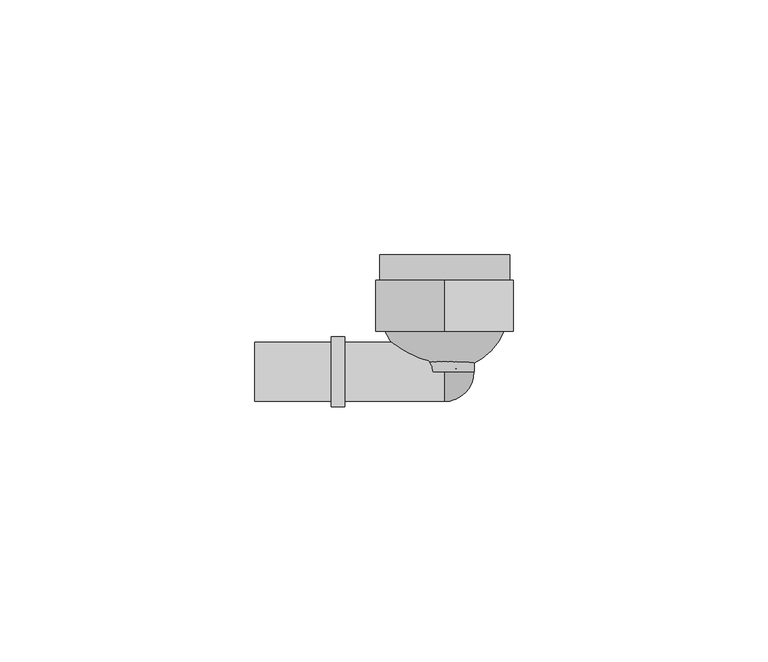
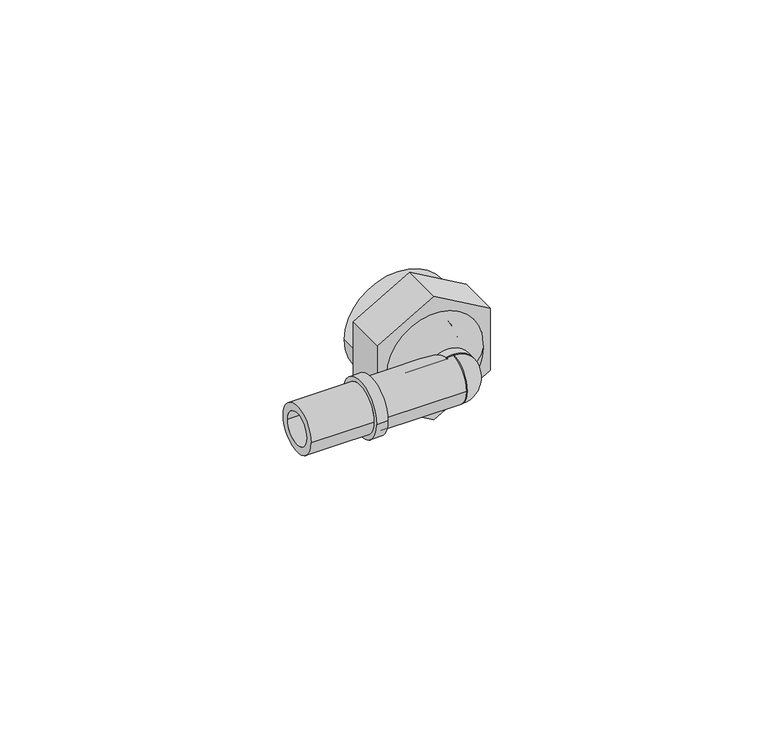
"""IFC4 building model written with IfcOpenShell, lengths in millimetres: pipe fitting geometry, FASTLOC_Elbow with female thread LX : FSL A internal PL."""

import ifcopenshell
import ifcopenshell.guid

model = None  # the IFC model being written
_history = None  # IfcOwnerHistory: only IFC2X3 demands one
_inside = {}  # id of a spatial element -> (the spatial element, [elements in it])
_under = {}  # id of a project, library or spatial element -> (it, [spatial elements below it])
_declared = {}  # id of a project -> (the project, [libraries it declares])
_typed = {}  # id of a type object -> (the type object, [elements of that type])
_made_of = {}  # id of a material, layer set ... -> (it, [elements and type objects made of it])


def new_model(schema):
    """Start an empty IFC model of exactly this schema.

    Asked for "IFC4X3", IfcOpenShell would pick the latest addendum, in which some entities
    have other attributes; the version numbers below select the first issue.
    IFC2X3 requires an IfcOwnerHistory on every rooted entity: one is made here for all.
    """
    global model, _history
    if schema == "IFC4X3":
        model = ifcopenshell.file(schema_version=(4, 3, 0, 0))
    else:
        model = ifcopenshell.file(schema=schema)
    _inside.clear()
    _under.clear()
    _declared.clear()
    _typed.clear()
    _made_of.clear()
    _history = None
    if model.schema == "IFC2X3":
        org = make("IfcOrganization", Name="unknown")
        user = make(
            "IfcPersonAndOrganization",
            ThePerson=make("IfcPerson", FamilyName="unknown"),
            TheOrganization=org,
        )
        app = make(
            "IfcApplication",
            ApplicationDeveloper=org,
            Version="unknown",
            ApplicationFullName="unknown",
            ApplicationIdentifier="unknown",
        )
        _history = make(
            "IfcOwnerHistory",
            OwningUser=user,
            OwningApplication=app,
            ChangeAction="ADDED",
            CreationDate=0,
        )
    return model


def make(cls, **values):
    """One entity of the class cls with the attributes given. An attribute that is None is left unset."""
    return model.create_entity(
        cls, **{name: value for name, value in values.items() if value is not None}
    )


def rooted(cls, **values):
    """An entity with a GlobalId (a new one), such as an element, a storey or a relation."""
    return make(cls, GlobalId=ifcopenshell.guid.new(), OwnerHistory=_history, **values)


def si_unit(unit_type, name, prefix=None):
    """IfcSIUnit, for example si_unit("LENGTHUNIT", "METRE", prefix="MILLI")."""
    return make("IfcSIUnit", UnitType=unit_type, Prefix=prefix, Name=name)


def assignment(units):
    """IfcUnitAssignment: the units of a project."""
    return None if units is None else make("IfcUnitAssignment", Units=units)


def point(xyz):
    """IfcCartesianPoint."""
    return None if xyz is None else make("IfcCartesianPoint", Coordinates=xyz)


def direction(xyz):
    """IfcDirection."""
    return None if xyz is None else make("IfcDirection", DirectionRatios=xyz)


def frame(location, z_axis=None, x_axis=None):
    """IfcAxis2Placement3D, a coordinate frame: its origin and axes. An axis left out is left unset."""
    return make(
        "IfcAxis2Placement3D",
        Location=point(location),
        Axis=direction(z_axis),
        RefDirection=direction(x_axis),
    )


def frame_2d(location, x_axis=None):
    """IfcAxis2Placement2D, a coordinate frame in the plane: its origin and x axis."""
    return make(
        "IfcAxis2Placement2D", Location=point(location), RefDirection=direction(x_axis)
    )


def origin():
    """The frame at (0, 0, 0) with its axes left unset."""
    return frame((0.0, 0.0, 0.0))


def origin_2d():
    """The frame at (0, 0) in the plane with its x axis left unset."""
    return frame_2d((0.0, 0.0))


def place(relative_to, where):
    """IfcLocalPlacement: puts the frame where relative to a parent placement (None: the world)."""
    return make(
        "IfcLocalPlacement", PlacementRelTo=relative_to, RelativePlacement=where
    )


def context(
    kind, dimensions, precision=None, world=None, true_north=None, identifier=None
):
    """IfcGeometricRepresentationContext, for example the 3D "Model" context."""
    return make(
        "IfcGeometricRepresentationContext",
        ContextIdentifier=identifier,
        ContextType=kind,
        CoordinateSpaceDimension=dimensions,
        Precision=precision,
        WorldCoordinateSystem=world,
        TrueNorth=true_north,
    )


def project(units=None, contexts=None):
    """IfcProject with its units and contexts."""
    return rooted(
        "IfcProject",
        Name="project",
        RepresentationContexts=contexts,
        UnitsInContext=assignment(units),
    )


def spatial(cls, under=None, at=None, **own):
    """A site, building, storey or space (cls), placed at a placement, below another one or the project."""
    s = rooted(cls, ObjectPlacement=at, **own)
    if under is not None:
        _under.setdefault(under.id(), (under, []))[1].append(s)
    return s


def polyline(points):
    """IfcPolyline through the points."""
    return make("IfcPolyline", Points=[point(p) for p in points])


def circle_curve(where, radius):
    """IfcCircle in the frame where."""
    return make("IfcCircle", Position=where, Radius=radius)


def ellipse_curve(where, semi_axis1, semi_axis2):
    """IfcEllipse in the frame where."""
    return make(
        "IfcEllipse", Position=where, SemiAxis1=semi_axis1, SemiAxis2=semi_axis2
    )


def trimmed(basis, trim1, trim2, sense, master):
    """IfcTrimmedCurve: the piece of a basis curve between two trims."""
    return make(
        "IfcTrimmedCurve",
        BasisCurve=basis,
        Trim1=trim1,
        Trim2=trim2,
        SenseAgreement=sense,
        MasterRepresentation=master,
    )


def segment(curve, same_sense, transition):
    """IfcCompositeCurveSegment."""
    return make(
        "IfcCompositeCurveSegment",
        Transition=transition,
        SameSense=same_sense,
        ParentCurve=curve,
    )


def composite_curve(segments, self_intersect=None):
    """IfcCompositeCurve: segments joined end to end."""
    return make("IfcCompositeCurve", Segments=segments, SelfIntersect=self_intersect)


def outline(outer, holes=None, kind="AREA"):
    """IfcArbitraryClosedProfileDef: a profile drawn as a closed curve; with holes, ...WithVoids."""
    if holes is None:
        return make("IfcArbitraryClosedProfileDef", ProfileType=kind, OuterCurve=outer)
    return make(
        "IfcArbitraryProfileDefWithVoids",
        ProfileType=kind,
        OuterCurve=outer,
        InnerCurves=holes,
    )


def extrude(swept, where, along, depth):
    """IfcExtrudedAreaSolid: the profile swept, set in the frame where, extruded along a direction by depth."""
    return make(
        "IfcExtrudedAreaSolid",
        SweptArea=swept,
        Position=where,
        ExtrudedDirection=direction(along),
        Depth=depth,
    )


def shape(context_of_items, identifier, shape_type, items):
    """IfcShapeRepresentation: the items that make up one representation, for example the "Body"."""
    return make(
        "IfcShapeRepresentation",
        ContextOfItems=context_of_items,
        RepresentationIdentifier=identifier,
        RepresentationType=shape_type,
        Items=items,
    )


def source(mapping_origin, context_of_items, identifier, shape_type, items):
    """IfcRepresentationMap: a shape defined once, which mapped items show again and again."""
    return make(
        "IfcRepresentationMap",
        MappingOrigin=mapping_origin,
        MappedRepresentation=shape(context_of_items, identifier, shape_type, items),
    )


def transform(
    local_origin,
    x_axis=None,
    y_axis=None,
    z_axis=None,
    scale=None,
    scale2=None,
    scale3=None,
    uniform=True,
):
    """IfcCartesianTransformationOperator3D, or its non-uniform kind. x_axis, y_axis, z_axis: its Axis1, 2, 3."""
    if uniform:
        return make(
            "IfcCartesianTransformationOperator3D",
            Axis1=direction(x_axis),
            Axis2=direction(y_axis),
            LocalOrigin=point(local_origin),
            Scale=scale,
            Axis3=direction(z_axis),
        )
    return make(
        "IfcCartesianTransformationOperator3DnonUniform",
        Axis1=direction(x_axis),
        Axis2=direction(y_axis),
        LocalOrigin=point(local_origin),
        Scale=scale,
        Axis3=direction(z_axis),
        Scale2=scale2,
        Scale3=scale3,
    )


def mapped(mapping_source, mapping_target):
    """IfcMappedItem: shows the shape of a source again, moved by a transform."""
    return make(
        "IfcMappedItem", MappingSource=mapping_source, MappingTarget=mapping_target
    )


def made_of(thing, what):
    """Note that an element or type object is made of a material, layer set ...; save() writes the relation."""
    if what is not None:
        _made_of.setdefault(what.id(), (what, []))[1].append(thing)
    return thing


def element(
    cls,
    number,
    at=None,
    inside=None,
    cuts=None,
    type_object=None,
    material=None,
    context=None,
    identifier="Body",
    shape_type=None,
    held_by="IfcProductDefinitionShape",
    body=None,
    shapes=None,
    **own,
):
    """One element of the class cls, such as IfcWall. Its Tag is "e" and its number.

    at: its placement. inside: the storey or other place that contains it. cuts: it is an
    opening in that element (IfcRelVoidsElement). A single representation is given by context,
    identifier, shape_type and body (its items); several are given by shapes. held_by: the class
    of the entity that holds the representations. save() writes the other relations.
    """
    e = rooted(cls, Tag="e%d" % number, ObjectPlacement=at, **own)
    if body is not None:
        shapes = [shape(context, identifier, shape_type, body)]
    if shapes is not None:
        e.Representation = make(held_by, Representations=shapes)
    if inside is not None:
        _inside.setdefault(inside.id(), (inside, []))[1].append(e)
    if cuts is not None:
        rooted(
            "IfcRelVoidsElement", RelatingBuildingElement=cuts, RelatedOpeningElement=e
        )
    if type_object is not None:
        _typed.setdefault(type_object.id(), (type_object, []))[1].append(e)
    return made_of(e, material)


def aggregate(whole, parts):
    """IfcRelAggregates: a whole, such as a stair, and the parts it consists of."""
    return rooted("IfcRelAggregates", RelatingObject=whole, RelatedObjects=parts)


def save(model, path):
    """Write the relations noted so far, then the file.

    IfcRelAggregates (storeys below a building ...), IfcRelContainedInSpatialStructure (elements
    in a storey), IfcRelDefinesByType, IfcRelAssociatesMaterial and IfcRelDeclares: one each for
    every whole, place, type object, material and project.
    """
    for whole, parts in _under.values():
        aggregate(whole, parts)
    for where, things in _inside.values():
        rooted(
            "IfcRelContainedInSpatialStructure",
            RelatedElements=things,
            RelatingStructure=where,
        )
    for kind, things in _typed.values():
        rooted("IfcRelDefinesByType", RelatedObjects=things, RelatingType=kind)
    for what, things in _made_of.values():
        rooted("IfcRelAssociatesMaterial", RelatedObjects=things, RelatingMaterial=what)
    for by, libraries in _declared.values():
        rooted("IfcRelDeclares", RelatingContext=by, RelatedDefinitions=libraries)
    model.write(path)


def plane_surface(at):
    """IfcPlane: the flat surface through the origin of the frame at, square to its z axis."""
    return make("IfcPlane", Position=at)


def cylinder_surface(at, radius):
    """IfcCylindricalSurface: all points at the distance radius from the z axis of the frame at."""
    return make("IfcCylindricalSurface", Position=at, Radius=radius)


def revolved_surface(curve, axis_point, axis_direction):
    """IfcSurfaceOfRevolution: the curve turned about the line through axis_point along axis_direction."""
    return make(
        "IfcSurfaceOfRevolution",
        SweptCurve=make("IfcArbitraryOpenProfileDef", ProfileType="CURVE", Curve=curve),
        AxisPosition=make("IfcAxis1Placement", Location=point(axis_point), Axis=direction(axis_direction)),
    )


def advanced_brep(points, edges, surfaces, faces):
    """IfcAdvancedBrep: a solid bounded by faces that lie on surfaces and meet in shared edges.

    An edge is (start, end): straight between two places in points (the first is 0);
    or (start, end, curve); or (start, end, curve, False) where it runs against its curve.
    A face is (place in surfaces, loops), or (place, loops, False) where it looks against
    its surface's normal. A loop lists edges by number (the first is 1), with a minus sign
    where the edge is run from its end to its start. The first loop is the outer one.
    """
    corners = [point(p) for p in points]
    vertices = [make("IfcVertexPoint", VertexGeometry=c) for c in corners]
    made = []
    for start, end, *more in edges:
        made.append(
            make(
                "IfcEdgeCurve",
                EdgeStart=vertices[start],
                EdgeEnd=vertices[end],
                EdgeGeometry=more[0] if more else make("IfcPolyline", Points=[corners[start], corners[end]]),
                SameSense=more[1] if len(more) > 1 else True,
            )
        )
    hull = []
    for where, loops, *sense in faces:
        bounds = []
        for j, loop in enumerate(loops):
            ring = [make("IfcOrientedEdge", EdgeElement=made[abs(k) - 1], Orientation=k > 0) for k in loop]
            bounds.append(
                make(
                    "IfcFaceOuterBound" if j == 0 else "IfcFaceBound",
                    Bound=make("IfcEdgeLoop", EdgeList=ring),
                    Orientation=True,
                )
            )
        hull.append(make("IfcAdvancedFace", Bounds=bounds, FaceSurface=surfaces[where], SameSense=sense[0] if sense else True))
    return make("IfcAdvancedBrep", Outer=make("IfcClosedShell", CfsFaces=hull))


def pipe_fitting_87b3d625(model_context):
    return source(origin(), model_context, "Body", "SolidModel", [
        extrude(outline(composite_curve([segment(trimmed(circle_curve(origin_2d(), 5.8), [point((0.0, -5.8))], [point((0.0, 5.8))], False, "CARTESIAN"), True, "CONTINUOUS"), segment(trimmed(circle_curve(origin_2d(), 5.8), [point((0.0, 5.8))], [point((0.0, -5.8))], False, "CARTESIAN"), True, "CONTINUOUS")], self_intersect=False), holes=[composite_curve([segment(trimmed(circle_curve(origin_2d(), 3.95), [point((0.0, -3.95))], [point((0.0, 3.95))], True, "CARTESIAN"), True, "CONTINUOUS"), segment(trimmed(circle_curve(origin_2d(), 3.95), [point((0.0, 3.95))], [point((0.0, -3.95))], True, "CARTESIAN"), True, "CONTINUOUS")], self_intersect=False)]), frame((0.0, 0.0, 0.0), z_axis=(0.0, 1.0, 0.0), x_axis=(0.0, 0.0, 1.0)), (0.0, 0.0, 1.0), 8.0),
        extrude(outline(polyline([(-7.7942286, 13.5), (7.7942286, 13.5), (15.5884573, 0.0), (7.7942286, -13.5), (-7.7942286, -13.5), (-15.5884573, 0.0), (-7.7942286, 13.5)])), frame((0.0, 8.0, 0.0), z_axis=(0.0, 1.0, 0.0), x_axis=(0.0, 0.0, 1.0)), (0.0, 0.0, 1.0), 10.0),
        advanced_brep(
        [(0.0, 0.0, 5.8), (0.0, 0.0, 2.9), (0.0, -2.9, 0.0), (0.0, -5.8, 0.0), (0.0, 0.0, -5.8), (0.0, 0.0, -2.9)],
        [
            (0, 1),
            (1, 2, circle_curve(frame((0.0, 0.0, 0.0), z_axis=(1.0, 0.0, 0.0), x_axis=(0.0, 0.0, 1.0)), 2.9)),
            (2, 3),
            (3, 0, circle_curve(frame((0.0, 0.0, 0.0), z_axis=(-1.0, 0.0, 0.0), x_axis=(0.0, 0.0, 1.0)), 5.8)),
            (4, 3, circle_curve(frame((0.0, 0.0, 0.0), z_axis=(-1.0, 0.0, 0.0), x_axis=(0.0, 0.0, -1.0)), 5.8)),
            (2, 5, circle_curve(frame((0.0, 0.0, 0.0), z_axis=(1.0, 0.0, 0.0), x_axis=(0.0, 0.0, -1.0)), 2.9)),
            (5, 4),
            (5, 1, circle_curve(frame((0.0, 0.0, 0.0), z_axis=(0.0, -1.0, 0.0), x_axis=(0.0, 0.0, 1.0)), 2.9)),
            (0, 4, circle_curve(frame((0.0, 0.0, 0.0), z_axis=(0.0, 1.0, 0.0), x_axis=(0.0, 0.0, 1.0)), 5.8)),
        ],
        [
            plane_surface(frame((0.0, 0.0, 0.0), z_axis=(-1.0, 0.0, 0.0), x_axis=(0.0, 0.0, 1.0))),
            plane_surface(frame((0.0, 0.0, 0.0), z_axis=(-1.0, 0.0, 0.0), x_axis=(0.0, 0.0, -1.0))),
            plane_surface(frame((0.0, 0.0, 0.0), z_axis=(0.0, 1.0, 0.0), x_axis=(0.0, 0.0, 1.0))),
            revolved_surface(trimmed(ellipse_curve(frame((0.0, 0.0, 0.0), z_axis=(1.0, 0.0, 0.0), x_axis=(0.0, 0.0, 1.0)), 2.9, 2.9), [point((0.0, 0.0, 2.9))], [point((0.0, -2.9, 0.0))], True, "CARTESIAN"), (0.0, 0.0, 0.0), (0.0, 1.0, 0.0)),
            revolved_surface(trimmed(ellipse_curve(frame((0.0, 0.0, 0.0), z_axis=(-1.0, 0.0, 0.0), x_axis=(0.0, 0.0, 1.0)), 5.8, 5.8), [point((0.0, -5.8, 0.0))], [point((0.0, 0.0, 5.8))], True, "CARTESIAN"), (0.0, 0.0, 0.0), (0.0, 1.0, 0.0)),
        ],
        [
            (0, [[1, 2, 3, 4]]),
            (1, [[5, -3, 6, 7]]),
            (2, [[8, -1, 9, -7]]),
            (3, [[-2, -8, -6]]),
            (4, [[-9, -4, -5]]),
        ],
    ),
        advanced_brep(
        [(-22.3, 5.8, 0.0), (-22.3, -5.8, 0.0), (-37.3, -5.8, 0.0), (-37.3, 5.8, 0.0), (-19.6, 6.9, 0.0), (-19.6, -6.9, 0.0), (-22.3, -6.9, 0.0), (-22.3, 6.9, 0.0), (0.0, 5.8, 0.0), (0.0, -5.8, 0.0), (-19.6, -5.8, 0.0), (-19.6, 5.8, 0.0), (-37.3, 3.95, 0.0), (-37.3, -3.95, 0.0), (0.0, -3.95, 0.0), (0.0, 3.95, 0.0)],
        [
            (0, 1, circle_curve(frame((-22.3, 0.0, 0.0), z_axis=(-1.0, 0.0, 0.0), x_axis=(0.0, -1.0, 0.0)), 5.8)),
            (1, 2),
            (2, 3, circle_curve(frame((-37.3, 0.0, 0.0), z_axis=(1.0, 0.0, 0.0), x_axis=(0.0, -1.0, 0.0)), 5.8)),
            (3, 0),
            (4, 5, circle_curve(frame((-19.6, 0.0, 0.0), z_axis=(-1.0, 0.0, 0.0), x_axis=(0.0, -1.0, 0.0)), 6.9)),
            (5, 6),
            (6, 7, circle_curve(frame((-22.3, 0.0, 0.0), z_axis=(1.0, 0.0, 0.0), x_axis=(0.0, -1.0, 0.0)), 6.9)),
            (7, 4),
            (8, 9, circle_curve(frame((0.0, 0.0, 0.0), z_axis=(-1.0, 0.0, 0.0), x_axis=(0.0, -1.0, 0.0)), 5.8)),
            (9, 10),
            (10, 11, circle_curve(frame((-19.6, 0.0, 0.0), z_axis=(1.0, 0.0, 0.0), x_axis=(0.0, -1.0, 0.0)), 5.8)),
            (11, 8),
            (12, 13, circle_curve(frame((-37.3, 0.0, 0.0), z_axis=(-1.0, 0.0, 0.0), x_axis=(0.0, -1.0, 0.0)), 3.95)),
            (13, 14),
            (14, 15, circle_curve(frame((0.0, 0.0, 0.0), z_axis=(1.0, 0.0, 0.0), x_axis=(0.0, -1.0, 0.0)), 3.95)),
            (15, 12),
            (2, 3, circle_curve(frame((-37.3, 0.0, 0.0), z_axis=(-1.0, 0.0, 0.0), x_axis=(0.0, 1.0, 0.0)), 5.8)),
            (12, 13, circle_curve(frame((-37.3, 0.0, 0.0), z_axis=(1.0, 0.0, 0.0), x_axis=(0.0, 1.0, 0.0)), 3.95)),
            (1, 0, circle_curve(frame((-22.3, 0.0, 0.0), z_axis=(-1.0, 0.0, 0.0), x_axis=(0.0, 1.0, 0.0)), 5.8)),
            (6, 7, circle_curve(frame((-22.3, 0.0, 0.0), z_axis=(-1.0, 0.0, 0.0), x_axis=(0.0, 1.0, 0.0)), 6.9)),
            (5, 4, circle_curve(frame((-19.6, 0.0, 0.0), z_axis=(-1.0, 0.0, 0.0), x_axis=(0.0, 1.0, 0.0)), 6.9)),
            (10, 11, circle_curve(frame((-19.6, 0.0, 0.0), z_axis=(-1.0, 0.0, 0.0), x_axis=(0.0, 1.0, 0.0)), 5.8)),
            (9, 8, circle_curve(frame((0.0, 0.0, 0.0), z_axis=(-1.0, 0.0, 0.0), x_axis=(0.0, 1.0, 0.0)), 5.8)),
            (14, 15, circle_curve(frame((0.0, 0.0, 0.0), z_axis=(-1.0, 0.0, 0.0), x_axis=(0.0, 1.0, 0.0)), 3.95)),
        ],
        [
            cylinder_surface(frame((0.0, 0.0, 0.0), z_axis=(1.0, 0.0, 0.0), x_axis=(0.0, -1.0, 0.0)), 5.8),
            cylinder_surface(frame((0.0, 0.0, 0.0), z_axis=(1.0, 0.0, 0.0), x_axis=(0.0, -1.0, 0.0)), 6.9),
            revolved_surface(polyline([(0.0, -3.95, 0.0), (-37.3, -3.95, 0.0)]), (0.0, 0.0, 0.0), (1.0, 0.0, 0.0)),
            plane_surface(frame((-37.3, 0.0, 0.0), z_axis=(-1.0, 0.0, 0.0), x_axis=(0.0, 1.0, 0.0))),
            cylinder_surface(frame((0.0, 0.0, 0.0), z_axis=(1.0, 0.0, 0.0), x_axis=(0.0, 1.0, 0.0)), 5.8),
            plane_surface(frame((-22.3, 0.0, 0.0), z_axis=(-1.0, 0.0, 0.0), x_axis=(0.0, 1.0, 0.0))),
            cylinder_surface(frame((0.0, 0.0, 0.0), z_axis=(1.0, 0.0, 0.0), x_axis=(0.0, 1.0, 0.0)), 6.9),
            plane_surface(frame((-19.6, 0.0, 0.0), z_axis=(1.0, 0.0, 0.0), x_axis=(0.0, 1.0, 0.0))),
            plane_surface(frame((0.0, 0.0, 0.0), z_axis=(1.0, 0.0, 0.0), x_axis=(0.0, 1.0, 0.0))),
            revolved_surface(polyline([(0.0, 3.95, 0.0), (-37.3, 3.95, 0.0)]), (0.0, 0.0, 0.0), (1.0, 0.0, 0.0)),
        ],
        [
            (0, [[1, 2, 3, 4]]),
            (1, [[5, 6, 7, 8]]),
            (0, [[9, 10, 11, 12]]),
            (2, [[13, 14, 15, 16]]),
            (3, [[17, -3], [18, -13]]),
            (4, [[19, -4, -17, -2]]),
            (5, [[20, -7], [-19, -1]]),
            (6, [[21, -8, -20, -6]]),
            (7, [[-21, -5], [22, -11]]),
            (4, [[23, -12, -22, -10]]),
            (8, [[-23, -9], [24, -15]]),
            (9, [[-18, -16, -24, -14]]),
        ],
    ),
        advanced_brep(
        [(0.5, 0.2598077, 0.0), (-0.5, 0.2598077, 0.0), (-12.75, 13.0, 0.0), (12.75, 13.0, 0.0), (0.5, 5.5166852, 0.0), (-0.5, 5.5166852, 0.0), (7.5, 13.0, 0.0), (-7.5, 13.0, 0.0), (7.5, 23.0, 0.0), (-7.5, 23.0, 0.0), (-12.75, 23.0, 0.0), (12.75, 23.0, 0.0)],
        [
            (0, 1, circle_curve(frame((0.0, 0.2598077, 0.0), z_axis=(0.0, 1.0, 0.0), x_axis=(-1.0, 0.0, 0.0)), 0.5)),
            (1, 2, circle_curve(frame((0.0, 13.0, 0.0), z_axis=(0.0, 0.0, -1.0), x_axis=(0.0, 1.0, 0.0)), 12.75)),
            (2, 3, circle_curve(frame((0.0, 13.0, 0.0), z_axis=(0.0, -1.0, 0.0), x_axis=(-1.0, 0.0, 0.0)), 12.75)),
            (3, 0, circle_curve(frame((0.0, 13.0, 0.0), z_axis=(0.0, 0.0, -1.0), x_axis=(0.0, 1.0, 0.0)), 12.75)),
            (4, 5, circle_curve(frame((0.0, 5.5166852, 0.0), z_axis=(0.0, 1.0, 0.0), x_axis=(-1.0, 0.0, 0.0)), 0.5)),
            (5, 1),
            (0, 4),
            (6, 7, circle_curve(frame((0.0, 13.0, 0.0), z_axis=(0.0, 1.0, 0.0), x_axis=(-1.0, 0.0, 0.0)), 7.5)),
            (7, 5, circle_curve(frame((0.0, 13.0, 0.0), z_axis=(0.0, 0.0, 1.0), x_axis=(0.0, 1.0, 0.0)), 7.5)),
            (4, 6, circle_curve(frame((0.0, 13.0, 0.0), z_axis=(0.0, 0.0, 1.0), x_axis=(0.0, 1.0, 0.0)), 7.5)),
            (8, 9, circle_curve(frame((0.0, 23.0, 0.0), z_axis=(0.0, 1.0, 0.0), x_axis=(-1.0, 0.0, 0.0)), 7.5)),
            (9, 7),
            (6, 8),
            (2, 10),
            (10, 11, circle_curve(frame((0.0, 23.0, 0.0), z_axis=(0.0, -1.0, 0.0), x_axis=(-1.0, 0.0, 0.0)), 12.75)),
            (11, 3),
            (1, 0, circle_curve(frame((0.0, 0.2598077, 0.0), z_axis=(0.0, 1.0, 0.0), x_axis=(1.0, 0.0, 0.0)), 0.5)),
            (3, 2, circle_curve(frame((0.0, 13.0, 0.0), z_axis=(0.0, -1.0, 0.0), x_axis=(1.0, 0.0, 0.0)), 12.75)),
            (5, 4, circle_curve(frame((0.0, 5.5166852, 0.0), z_axis=(0.0, 1.0, 0.0), x_axis=(1.0, 0.0, 0.0)), 0.5)),
            (7, 6, circle_curve(frame((0.0, 13.0, 0.0), z_axis=(0.0, 1.0, 0.0), x_axis=(1.0, 0.0, 0.0)), 7.5)),
            (9, 8, circle_curve(frame((0.0, 23.0, 0.0), z_axis=(0.0, 1.0, 0.0), x_axis=(1.0, 0.0, 0.0)), 7.5)),
            (10, 11, circle_curve(frame((0.0, 23.0, 0.0), z_axis=(0.0, 1.0, 0.0), x_axis=(1.0, 0.0, 0.0)), 12.75)),
        ],
        [
            revolved_surface(trimmed(ellipse_curve(frame((0.0, 13.0, 0.0), z_axis=(0.0, 0.0, 1.0), x_axis=(0.0, 1.0, 0.0)), 12.75, 12.75), [point((-12.75, 13.0, 0.0))], [point((-0.5, 0.2598077, 0.0))], True, "CARTESIAN"), (0.0, 8.0, 0.0), (0.0, -1.0, 0.0)),
            revolved_surface(polyline([(-0.5, 0.25980769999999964, 0.0), (-0.5, 5.5166852, 0.0)]), (0.0, 8.0, 0.0), (0.0, -1.0, 0.0)),
            revolved_surface(trimmed(ellipse_curve(frame((0.0, 13.0, 0.0), z_axis=(0.0, 0.0, -1.0), x_axis=(0.0, 1.0, 0.0)), 7.5, 7.5), [point((-0.5, 5.5166852, 0.0))], [point((-7.5, 13.0, 0.0))], True, "CARTESIAN"), (0.0, 8.0, 0.0), (0.0, -1.0, 0.0)),
            revolved_surface(polyline([(-7.5, 13.0, 0.0), (-7.5, 23.0, 0.0)]), (0.0, 8.0, 0.0), (0.0, -1.0, 0.0)),
            cylinder_surface(frame((0.0, 8.0, 0.0), z_axis=(0.0, -1.0, 0.0), x_axis=(-1.0, 0.0, 0.0)), 12.75),
            revolved_surface(trimmed(ellipse_curve(frame((0.0, 13.0, 0.0), z_axis=(0.0, 0.0, -1.0), x_axis=(0.0, 1.0, 0.0)), 12.75, 12.75), [point((12.75, 13.0, 0.0))], [point((0.5, 0.2598077, 0.0))], True, "CARTESIAN"), (0.0, 8.0, 0.0), (0.0, -1.0, 0.0)),
            revolved_surface(polyline([(0.5, 0.25980769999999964, 0.0), (0.5, 5.5166852, 0.0)]), (0.0, 8.0, 0.0), (0.0, -1.0, 0.0)),
            revolved_surface(trimmed(ellipse_curve(frame((0.0, 13.0, 0.0), z_axis=(0.0, 0.0, 1.0), x_axis=(0.0, 1.0, 0.0)), 7.5, 7.5), [point((0.5, 5.5166852, 0.0))], [point((7.5, 13.0, 0.0))], True, "CARTESIAN"), (0.0, 8.0, 0.0), (0.0, -1.0, 0.0)),
            revolved_surface(polyline([(7.5, 13.0, 0.0), (7.5, 23.0, 0.0)]), (0.0, 8.0, 0.0), (0.0, -1.0, 0.0)),
            plane_surface(frame((0.0, 23.0, 0.0), z_axis=(0.0, 1.0, 0.0), x_axis=(1.0, 0.0, 0.0))),
            cylinder_surface(frame((0.0, 8.0, 0.0), z_axis=(0.0, -1.0, 0.0), x_axis=(1.0, 0.0, 0.0)), 12.75),
        ],
        [
            (0, [[1, 2, 3, 4]]),
            (1, [[5, 6, -1, 7]]),
            (2, [[8, 9, -5, 10]]),
            (3, [[11, 12, -8, 13]]),
            (4, [[-3, 14, 15, 16]]),
            (5, [[17, -4, 18, -2]]),
            (6, [[19, -7, -17, -6]]),
            (7, [[20, -10, -19, -9]]),
            (8, [[21, -13, -20, -12]]),
            (9, [[22, -15], [-21, -11]]),
            (10, [[-18, -16, -22, -14]]),
        ],
    ),
    ])


if __name__ == "__main__":
    model = new_model("IFC4")
    model_context = context("Model", 3, world=origin())
    ifc_project = project(units=[si_unit("LENGTHUNIT", "METRE", prefix="MILLI")], contexts=[model_context])
    site = spatial("IfcSite", under=ifc_project)
    building = spatial("IfcBuilding", under=site)
    placement = place(None, origin())
    pipe_fitting_shape = pipe_fitting_87b3d625(model_context)
    element("IfcPipeFitting", 1, ObjectType="FASTLOC_Elbow with female thread LX : FSL A internal PL", at=placement, inside=building, context=model_context, shape_type="MappedRepresentation", body=[
        mapped(pipe_fitting_shape, transform((0.0, 0.0, 0.0), x_axis=(1.0, 0.0, 0.0), y_axis=(0.0, 1.0, 0.0), z_axis=(0.0, 0.0, 1.0))),
    ])
    save(model, "model.ifc")
